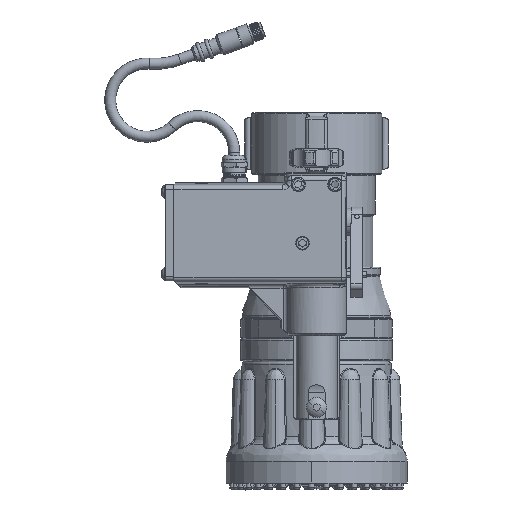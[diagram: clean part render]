
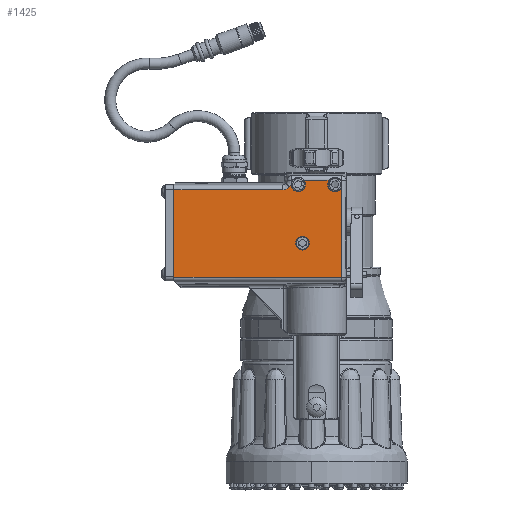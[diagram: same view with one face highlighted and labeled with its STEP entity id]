
A CAD part, left-side view. The second image highlights one B-rep face of the part: STEP entity #1425.
In plain terms, the highlighted planar face has unit normal (-1, 0, 0).
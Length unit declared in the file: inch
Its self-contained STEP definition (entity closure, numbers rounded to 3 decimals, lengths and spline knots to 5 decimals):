
#1425 = ADVANCED_FACE ( 'NONE', ( #34577, #34584 ), #11994, .T. ) ;
#5383 = AXIS2_PLACEMENT_3D ( 'NONE', #7693, #7694, #7695 ) ;
#5387 = AXIS2_PLACEMENT_3D ( 'NONE', #7749, #7750, #7751 ) ;
#5388 = AXIS2_PLACEMENT_3D ( 'NONE', #7752, #7753, #7754 ) ;
#5389 = AXIS2_PLACEMENT_3D ( 'NONE', #7755, #7756, #7757 ) ;
#5912 = AXIS2_PLACEMENT_3D ( 'NONE', #36500, #36501, #36502 ) ;
#5917 = AXIS2_PLACEMENT_3D ( 'NONE', #36527, #36528, #36529 ) ;
#7652 = CARTESIAN_POINT ( 'NONE',  ( -5.558, 0.79546, 6.4916 ) ) ;
#7671 = DIRECTION ( 'NONE',  ( 0., 1., 0. ) ) ;
#7686 = CARTESIAN_POINT ( 'NONE',  ( -5.558, -0.67962, 6.61231 ) ) ;
#7687 = DIRECTION ( 'NONE',  ( 0., 0., 1. ) ) ;
#7693 = CARTESIAN_POINT ( 'NONE',  ( -5.558, -0.5, 6.37775 ) ) ;
#7694 = DIRECTION ( 'NONE',  ( -1., 0., 0. ) ) ;
#7695 = DIRECTION ( 'NONE',  ( 0., 0., -1. ) ) ;
#7721 = DIRECTION ( 'NONE',  ( 0., 1., 0. ) ) ;
#7735 = CARTESIAN_POINT ( 'NONE',  ( -5.558, 0.70726, 6.35905 ) ) ;
#7736 = CARTESIAN_POINT ( 'NONE',  ( -5.558, 3.93046, 6.2366 ) ) ;
#7741 = CARTESIAN_POINT ( 'NONE',  ( -5.558, 0.72522, 6.33245 ) ) ;
#7743 = CARTESIAN_POINT ( 'NONE',  ( -5.558, 0.74791, 6.30976 ) ) ;
#7744 = CARTESIAN_POINT ( 'NONE',  ( -5.558, 0.6947, 6.38858 ) ) ;
#7745 = CARTESIAN_POINT ( 'NONE',  ( -5.558, 3.9, 6.42192 ) ) ;
#7746 = DIRECTION ( 'NONE',  ( 0., 0., 1. ) ) ;
#7747 = CARTESIAN_POINT ( 'NONE',  ( -5.558, -0.80033, 3.83723 ) ) ;
#7748 = DIRECTION ( 'NONE',  ( 0., -1., 0. ) ) ;
#7749 = CARTESIAN_POINT ( 'NONE',  ( -5.558, 0.5, 6.37775 ) ) ;
#7750 = DIRECTION ( 'NONE',  ( -1., 0., 0. ) ) ;
#7751 = DIRECTION ( 'NONE',  ( 0., 0., 1. ) ) ;
#7752 = CARTESIAN_POINT ( 'NONE',  ( -5.558, 0.385, 4.77275 ) ) ;
#7753 = DIRECTION ( 'NONE',  ( -1., 0., 0. ) ) ;
#7754 = DIRECTION ( 'NONE',  ( 0., 0., -1. ) ) ;
#7755 = CARTESIAN_POINT ( 'NONE',  ( -5.558, 0.385, 4.77275 ) ) ;
#7756 = DIRECTION ( 'NONE',  ( -1., 0., 0. ) ) ;
#7757 = DIRECTION ( 'NONE',  ( 0., 0., -1. ) ) ;
#9445 = ORIENTED_EDGE ( 'NONE', *, *, #16289, .F. ) ;
#9446 = ORIENTED_EDGE ( 'NONE', *, *, #16291, .F. ) ;
#9447 = ORIENTED_EDGE ( 'NONE', *, *, #21160, .F. ) ;
#9448 = ORIENTED_EDGE ( 'NONE', *, *, #16285, .T. ) ;
#9449 = ORIENTED_EDGE ( 'NONE', *, *, #21174, .F. ) ;
#9450 = ORIENTED_EDGE ( 'NONE', *, *, #16283, .F. ) ;
#9451 = ORIENTED_EDGE ( 'NONE', *, *, #16276, .T. ) ;
#9453 = ORIENTED_EDGE ( 'NONE', *, *, #16280, .F. ) ;
#9454 = ORIENTED_EDGE ( 'NONE', *, *, #16247, .T. ) ;
#9456 = ORIENTED_EDGE ( 'NONE', *, *, #16287, .F. ) ;
#9468 = ORIENTED_EDGE ( 'NONE', *, *, #16259, .T. ) ;
#9469 = ORIENTED_EDGE ( 'NONE', *, *, #21169, .F. ) ;
#9483 = ORIENTED_EDGE ( 'NONE', *, *, #16253, .F. ) ;
#11991 = CARTESIAN_POINT ( 'NONE',  ( -5.558, 0.86006, 6.42192 ) ) ;
#11994 = PLANE ( 'NONE',  #13299 ) ;
#11996 = DIRECTION ( 'NONE',  ( -1., 0., 0. ) ) ;
#11997 = DIRECTION ( 'NONE',  ( 0., 0., -1. ) ) ;
#13299 = AXIS2_PLACEMENT_3D ( 'NONE', #11991, #11996, #11997 ) ;
#16247 = EDGE_CURVE ( 'NONE', #60931, #60492, #26502, .T. ) ;
#16253 = EDGE_CURVE ( 'NONE', #60933, #60475, #26507, .T. ) ;
#16259 = EDGE_CURVE ( 'NONE', #60583, #60475, #26510, .T. ) ;
#16276 = EDGE_CURVE ( 'NONE', #60851, #60503, #26516, .T. ) ;
#16280 = EDGE_CURVE ( 'NONE', #60898, #60920, #23230, .T. ) ;
#16283 = EDGE_CURVE ( 'NONE', #60505, #60503, #26520, .T. ) ;
#16285 = EDGE_CURVE ( 'NONE', #60505, #60583, #26523, .T. ) ;
#16287 = EDGE_CURVE ( 'NONE', #60922, #60492, #26524, .T. ) ;
#16289 = EDGE_CURVE ( 'NONE', #60507, #60481, #26526, .T. ) ;
#16291 = EDGE_CURVE ( 'NONE', #60481, #60507, #26522, .T. ) ;
#16649 = CIRCLE ( 'NONE', #5912, 0.195 ) ;
#19737 =( BOUNDED_CURVE ( )  B_SPLINE_CURVE ( 3, ( #36433, #36435, #36438, #36439 ),
 .UNSPECIFIED., .F., .F. ) 
 B_SPLINE_CURVE_WITH_KNOTS ( ( 4, 4 ),
 ( 5.4984, 6.28319 ),
 .UNSPECIFIED. ) 
 CURVE ( )  GEOMETRIC_REPRESENTATION_ITEM ( )  RATIONAL_B_SPLINE_CURVE ( ( 1., 0.949, 0.949, 1. ) ) 
 REPRESENTATION_ITEM ( '' )  );
#21160 = EDGE_CURVE ( 'NONE', #60851, #60898, #19737, .T. ) ;
#21169 = EDGE_CURVE ( 'NONE', #60920, #60922, #16649, .T. ) ;
#21174 = EDGE_CURVE ( 'NONE', #60931, #60933, #37416, .T. ) ;
#23230 =( BOUNDED_CURVE ( )  B_SPLINE_CURVE ( 3, ( #7743, #7741, #7735, #7744 ),
 .UNSPECIFIED., .F., .F. ) 
 B_SPLINE_CURVE_WITH_KNOTS ( ( 4, 4 ),
 ( 0., 0.38271 ),
 .UNSPECIFIED. ) 
 CURVE ( )  GEOMETRIC_REPRESENTATION_ITEM ( )  RATIONAL_B_SPLINE_CURVE ( ( 1., 0.988, 0.988, 1. ) ) 
 REPRESENTATION_ITEM ( '' )  );
#23571 = CARTESIAN_POINT ( 'NONE',  ( -5.558, 0.9246, 6.2366 ) ) ;
#23613 = CARTESIAN_POINT ( 'NONE',  ( -5.558, 0.74791, 6.30976 ) ) ;
#23631 = CARTESIAN_POINT ( 'NONE',  ( -5.558, 0.6947, 6.38858 ) ) ;
#23632 = CARTESIAN_POINT ( 'NONE',  ( -5.558, 0.5, 6.18275 ) ) ;
#23638 = CARTESIAN_POINT ( 'NONE',  ( -5.558, -0.34169, 6.4916 ) ) ;
#23640 = CARTESIAN_POINT ( 'NONE',  ( -5.558, -0.5, 6.18275 ) ) ;
#26502 = LINE ( 'NONE', #7652, #26503 ) ;
#26503 = VECTOR ( 'NONE', #7671, 39.37008 ) ;
#26507 = CIRCLE ( 'NONE', #5383, 0.195 ) ;
#26510 = LINE ( 'NONE', #7686, #26511 ) ;
#26511 = VECTOR ( 'NONE', #7687, 39.37008 ) ;
#26516 = LINE ( 'NONE', #7736, #26519 ) ;
#26517 = VECTOR ( 'NONE', #7746, 39.37008 ) ;
#26519 = VECTOR ( 'NONE', #7721, 39.37008 ) ;
#26520 = LINE ( 'NONE', #7745, #26517 ) ;
#26522 = CIRCLE ( 'NONE', #5389, 0.1685 ) ;
#26523 = LINE ( 'NONE', #7747, #26525 ) ;
#26524 = CIRCLE ( 'NONE', #5387, 0.195 ) ;
#26525 = VECTOR ( 'NONE', #7748, 39.37008 ) ;
#26526 = CIRCLE ( 'NONE', #5388, 0.1685 ) ;
#34577 = FACE_OUTER_BOUND ( 'NONE', #76649, .T. ) ;
#34584 = FACE_BOUND ( 'NONE', #76650, .T. ) ;
#36433 = CARTESIAN_POINT ( 'NONE',  ( -5.558, 0.9246, 6.2366 ) ) ;
#36435 = CARTESIAN_POINT ( 'NONE',  ( -5.558, 0.85742, 6.2366 ) ) ;
#36438 = CARTESIAN_POINT ( 'NONE',  ( -5.558, 0.79538, 6.26229 ) ) ;
#36439 = CARTESIAN_POINT ( 'NONE',  ( -5.558, 0.74791, 6.30976 ) ) ;
#36500 = CARTESIAN_POINT ( 'NONE',  ( -5.558, 0.5, 6.37775 ) ) ;
#36501 = DIRECTION ( 'NONE',  ( -1., 0., 0. ) ) ;
#36502 = DIRECTION ( 'NONE',  ( 0., 0., 1. ) ) ;
#36527 = CARTESIAN_POINT ( 'NONE',  ( -5.558, -0.5, 6.37775 ) ) ;
#36528 = DIRECTION ( 'NONE',  ( -1., 0., 0. ) ) ;
#36529 = DIRECTION ( 'NONE',  ( 0., 0., -1. ) ) ;
#37416 = CIRCLE ( 'NONE', #5917, 0.195 ) ;
#42220 = CARTESIAN_POINT ( 'NONE',  ( -5.558, -0.67962, 6.30185 ) ) ;
#42223 = CARTESIAN_POINT ( 'NONE',  ( -5.558, 0.385, 4.94125 ) ) ;
#42228 = CARTESIAN_POINT ( 'NONE',  ( -5.558, 0.34169, 6.4916 ) ) ;
#42233 = CARTESIAN_POINT ( 'NONE',  ( -5.558, 3.9, 6.2366 ) ) ;
#42234 = CARTESIAN_POINT ( 'NONE',  ( -5.558, 3.9, 3.83723 ) ) ;
#42235 = CARTESIAN_POINT ( 'NONE',  ( -5.558, 0.385, 4.60425 ) ) ;
#42270 = CARTESIAN_POINT ( 'NONE',  ( -5.558, -0.67962, 3.83723 ) ) ;
#60475 = VERTEX_POINT ( 'NONE', #42220 ) ;
#60481 = VERTEX_POINT ( 'NONE', #42223 ) ;
#60492 = VERTEX_POINT ( 'NONE', #42228 ) ;
#60503 = VERTEX_POINT ( 'NONE', #42233 ) ;
#60505 = VERTEX_POINT ( 'NONE', #42234 ) ;
#60507 = VERTEX_POINT ( 'NONE', #42235 ) ;
#60583 = VERTEX_POINT ( 'NONE', #42270 ) ;
#60851 = VERTEX_POINT ( 'NONE', #23571 ) ;
#60898 = VERTEX_POINT ( 'NONE', #23613 ) ;
#60920 = VERTEX_POINT ( 'NONE', #23631 ) ;
#60922 = VERTEX_POINT ( 'NONE', #23632 ) ;
#60931 = VERTEX_POINT ( 'NONE', #23638 ) ;
#60933 = VERTEX_POINT ( 'NONE', #23640 ) ;
#76649 = EDGE_LOOP ( 'NONE', ( #9469, #9453, #9447, #9451, #9450, #9448, #9468, #9483, #9449, #9454, #9456 ) ) ;
#76650 = EDGE_LOOP ( 'NONE', ( #9445, #9446 ) ) ;
